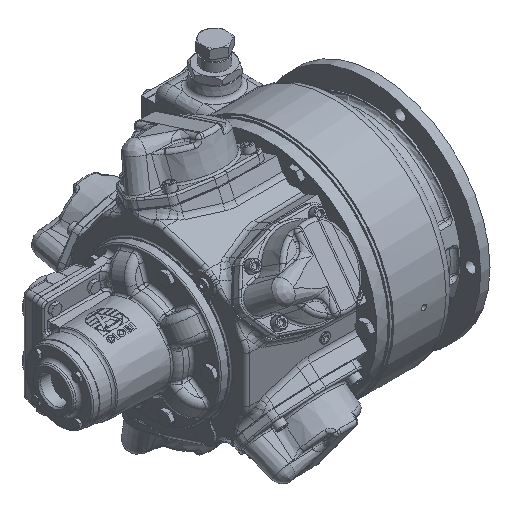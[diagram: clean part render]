
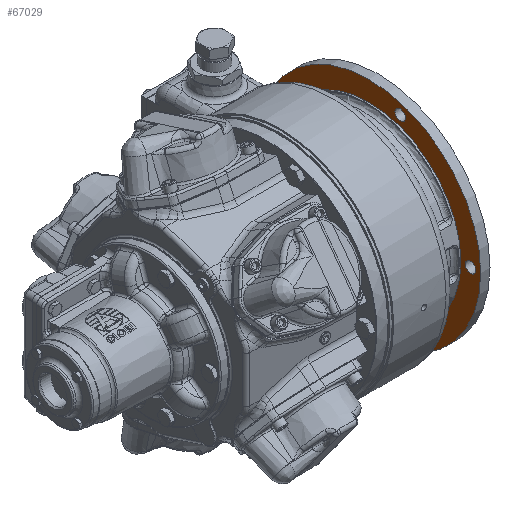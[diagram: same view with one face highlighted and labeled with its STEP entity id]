
A CAD part, isometric view. The second image highlights one B-rep face of the part: STEP entity #67029.
In plain terms, the highlighted planar face has unit normal (-1, 0, 0).
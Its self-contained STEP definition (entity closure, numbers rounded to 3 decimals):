
#515 = EDGE_CURVE ( 'NONE', #68209, #68209, #30428, .T. ) ;
#1665 = CARTESIAN_POINT ( 'NONE',  ( 256.5, 0., 0. ) ) ;
#4764 = VERTEX_POINT ( 'NONE', #72448 ) ;
#4788 = AXIS2_PLACEMENT_3D ( 'NONE', #144635, #51252, #52956 ) ;
#7147 = DIRECTION ( 'NONE',  ( 1., 0., 0. ) ) ;
#8925 = CARTESIAN_POINT ( 'NONE',  ( 256.5, -54.078, 166.435 ) ) ;
#14567 = AXIS2_PLACEMENT_3D ( 'NONE', #28879, #160060, #58053 ) ;
#15430 = ORIENTED_EDGE ( 'NONE', *, *, #164661, .T. ) ;
#22800 = CIRCLE ( 'NONE', #14567, 192.5 ) ;
#23263 = EDGE_CURVE ( 'NONE', #4764, #4764, #147576, .T. ) ;
#25423 = FACE_BOUND ( 'NONE', #110962, .T. ) ;
#27050 = FACE_OUTER_BOUND ( 'NONE', #127005, .T. ) ;
#28879 = CARTESIAN_POINT ( 'NONE',  ( 256.5, 0., 0. ) ) ;
#30177 = EDGE_LOOP ( 'NONE', ( #34371 ) ) ;
#30428 = CIRCLE ( 'NONE', #151069, 9. ) ;
#31044 = CARTESIAN_POINT ( 'NONE',  ( 256.5, -63.078, -166.435 ) ) ;
#34371 = ORIENTED_EDGE ( 'NONE', *, *, #515, .T. ) ;
#35282 = VERTEX_POINT ( 'NONE', #60206 ) ;
#36497 = EDGE_LOOP ( 'NONE', ( #98826 ) ) ;
#36999 = VERTEX_POINT ( 'NONE', #104689 ) ;
#38058 = VERTEX_POINT ( 'NONE', #156328 ) ;
#38248 = ORIENTED_EDGE ( 'NONE', *, *, #82398, .F. ) ;
#38306 = FACE_BOUND ( 'NONE', #61225, .T. ) ;
#39404 = DIRECTION ( 'NONE',  ( 1., 0., 0. ) ) ;
#44793 = VERTEX_POINT ( 'NONE', #31044 ) ;
#46501 = DIRECTION ( 'NONE',  ( 1., 0., 0. ) ) ;
#48269 = DIRECTION ( 'NONE',  ( 1., 0., 0. ) ) ;
#49394 = EDGE_LOOP ( 'NONE', ( #90218 ) ) ;
#51252 = DIRECTION ( 'NONE',  ( 1., 0., 0. ) ) ;
#51767 = AXIS2_PLACEMENT_3D ( 'NONE', #57232, #97491, #109499 ) ;
#52956 = DIRECTION ( 'NONE',  ( 0., -1., 0. ) ) ;
#57232 = CARTESIAN_POINT ( 'NONE',  ( 256.5, -175., 0. ) ) ;
#58053 = DIRECTION ( 'NONE',  ( 0., -1., 0. ) ) ;
#60206 = CARTESIAN_POINT ( 'NONE',  ( 256.5, -158.5, 0. ) ) ;
#61225 = EDGE_LOOP ( 'NONE', ( #15430 ) ) ;
#67029 = ADVANCED_FACE ( 'NONE', ( #144540, #103451, #38306, #90659, #25423, #27050, #77817 ), #117196, .F. ) ;
#67392 = CARTESIAN_POINT ( 'NONE',  ( 256.5, 132.578, 102.862 ) ) ;
#67967 = CIRCLE ( 'NONE', #109026, 9. ) ;
#68209 = VERTEX_POINT ( 'NONE', #67392 ) ;
#68537 = CIRCLE ( 'NONE', #74051, 158.5 ) ;
#72448 = CARTESIAN_POINT ( 'NONE',  ( 256.5, -184., 0. ) ) ;
#73958 = DIRECTION ( 'NONE',  ( 0., -1., 0. ) ) ;
#74051 = AXIS2_PLACEMENT_3D ( 'NONE', #1665, #39404, #80590 ) ;
#76480 = VERTEX_POINT ( 'NONE', #128722 ) ;
#77817 = FACE_BOUND ( 'NONE', #49394, .T. ) ;
#80590 = DIRECTION ( 'NONE',  ( 0., -1., 0. ) ) ;
#82398 = EDGE_CURVE ( 'NONE', #38058, #38058, #22800, .T. ) ;
#82689 = CARTESIAN_POINT ( 'NONE',  ( 256.5, -54.078, -166.435 ) ) ;
#90218 = ORIENTED_EDGE ( 'NONE', *, *, #142167, .T. ) ;
#90659 = FACE_BOUND ( 'NONE', #30177, .T. ) ;
#95436 = DIRECTION ( 'NONE',  ( 0., -1., 0. ) ) ;
#97491 = DIRECTION ( 'NONE',  ( 1., 0., 0. ) ) ;
#97737 = CIRCLE ( 'NONE', #4788, 9. ) ;
#98826 = ORIENTED_EDGE ( 'NONE', *, *, #23263, .T. ) ;
#103451 = FACE_BOUND ( 'NONE', #106256, .T. ) ;
#104689 = CARTESIAN_POINT ( 'NONE',  ( 256.5, -63.078, 166.435 ) ) ;
#106256 = EDGE_LOOP ( 'NONE', ( #151075 ) ) ;
#107105 = EDGE_CURVE ( 'NONE', #44793, #44793, #151195, .T. ) ;
#109026 = AXIS2_PLACEMENT_3D ( 'NONE', #8925, #48269, #164013 ) ;
#109499 = DIRECTION ( 'NONE',  ( 0., -1., 0. ) ) ;
#109991 = DIRECTION ( 'NONE',  ( 1., 0., 0. ) ) ;
#110962 = EDGE_LOOP ( 'NONE', ( #113623 ) ) ;
#112687 = AXIS2_PLACEMENT_3D ( 'NONE', #137416, #109991, #73958 ) ;
#113465 = DIRECTION ( 'NONE',  ( 0., -1., 0. ) ) ;
#113623 = ORIENTED_EDGE ( 'NONE', *, *, #148591, .T. ) ;
#117196 = PLANE ( 'NONE',  #112687 ) ;
#127005 = EDGE_LOOP ( 'NONE', ( #38248 ) ) ;
#128722 = CARTESIAN_POINT ( 'NONE',  ( 256.5, 132.578, -102.862 ) ) ;
#137416 = CARTESIAN_POINT ( 'NONE',  ( 256.5, 158.5, 0. ) ) ;
#140146 = AXIS2_PLACEMENT_3D ( 'NONE', #82689, #46501, #95436 ) ;
#142167 = EDGE_CURVE ( 'NONE', #35282, #35282, #68537, .T. ) ;
#144540 = FACE_BOUND ( 'NONE', #36497, .T. ) ;
#144635 = CARTESIAN_POINT ( 'NONE',  ( 256.5, 141.578, -102.862 ) ) ;
#147576 = CIRCLE ( 'NONE', #51767, 9. ) ;
#148591 = EDGE_CURVE ( 'NONE', #36999, #36999, #67967, .T. ) ;
#150304 = CARTESIAN_POINT ( 'NONE',  ( 256.5, 141.578, 102.862 ) ) ;
#151069 = AXIS2_PLACEMENT_3D ( 'NONE', #150304, #7147, #113465 ) ;
#151075 = ORIENTED_EDGE ( 'NONE', *, *, #107105, .T. ) ;
#151195 = CIRCLE ( 'NONE', #140146, 9. ) ;
#156328 = CARTESIAN_POINT ( 'NONE',  ( 256.5, -192.5, 0. ) ) ;
#160060 = DIRECTION ( 'NONE',  ( 1., 0., 0. ) ) ;
#164013 = DIRECTION ( 'NONE',  ( 0., -1., 0. ) ) ;
#164661 = EDGE_CURVE ( 'NONE', #76480, #76480, #97737, .T. ) ;
